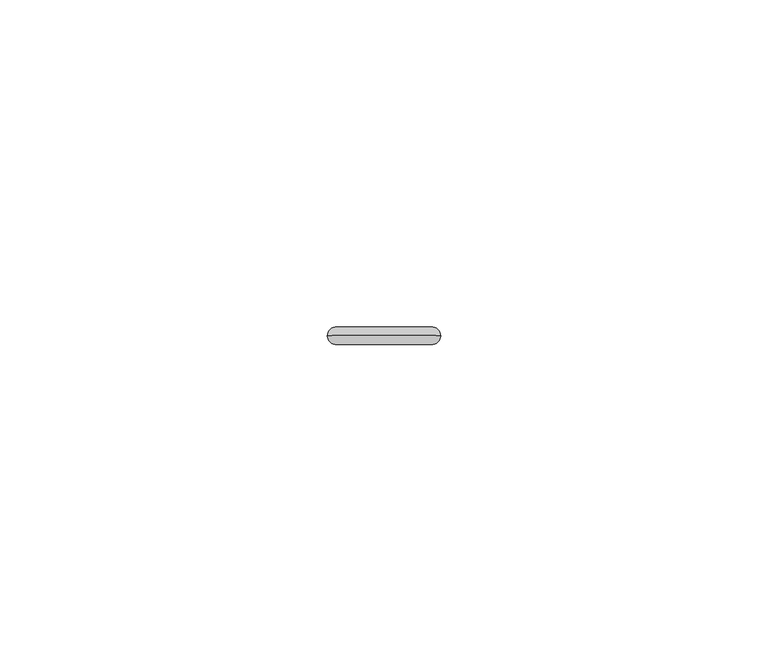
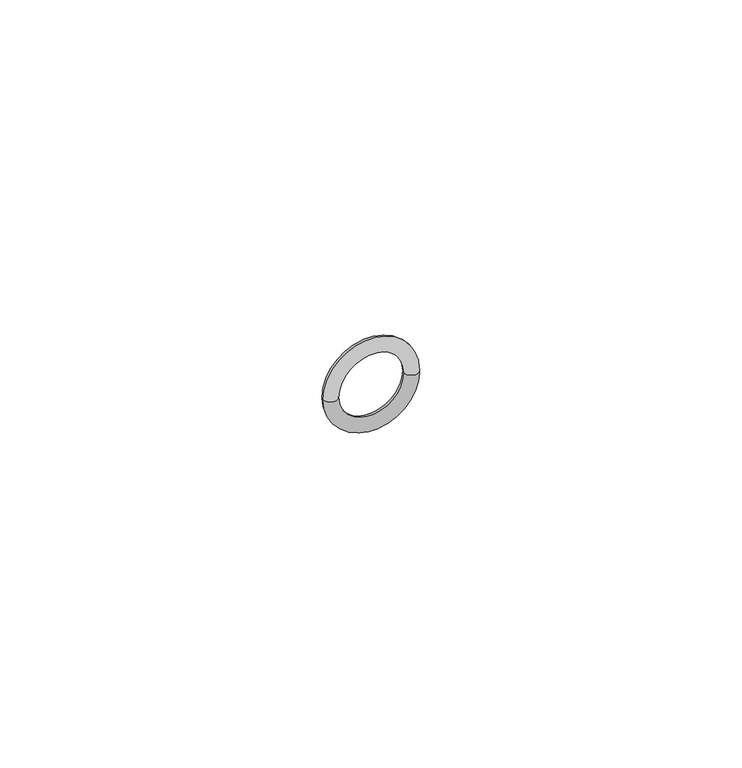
"""IFC4 building model written with IfcOpenShell, lengths in millimetres: pipe fitting geometry, VALTEC_VTi.990.I_Уплотнительное кольцо из FPM : VTi.990.I."""

from ifc_helpers import new_model, si_unit, point, frame, origin, place, context, project, spatial, circle_curve, ellipse_curve, trimmed, source, transform, mapped, element, save
from ifc_brep_helpers import revolved_surface, advanced_brep


def pipe_fitting_65f6df2c(model_context):
    return source(origin(), model_context, "Body", "AdvancedBrep", [
        advanced_brep(
        [(6.0, 0.0, 0.0), (-6.0, 0.0, 0.0), (-8.65, 0.0, 0.0), (8.65, 0.0, 0.0)],
        [
            (0, 1, circle_curve(frame((0.0, 0.0, 0.0), z_axis=(0.0, 1.0, 0.0), x_axis=(-1.0, 0.0, 0.0)), 6.0)),
            (1, 2, circle_curve(frame((-7.325, 0.0, 0.0), z_axis=(0.0, 0.0, -1.0), x_axis=(1.0, 0.0, 0.0)), 1.325)),
            (2, 3, circle_curve(frame((0.0, 0.0, 0.0), z_axis=(0.0, -1.0, 0.0), x_axis=(-1.0, 0.0, 0.0)), 8.65)),
            (3, 0, circle_curve(frame((7.325, 0.0, 0.0), z_axis=(0.0, 0.0, -1.0), x_axis=(-1.0, 0.0, 0.0)), 1.325)),
            (1, 0, circle_curve(frame((0.0, 0.0, 0.0), z_axis=(0.0, 1.0, 0.0), x_axis=(-1.0, 0.0, 0.0)), 6.0)),
            (3, 2, circle_curve(frame((0.0, 0.0, 0.0), z_axis=(0.0, -1.0, 0.0), x_axis=(-1.0, 0.0, 0.0)), 8.65)),
            (2, 1, circle_curve(frame((-7.325, 0.0, 0.0), z_axis=(0.0, 0.0, -1.0), x_axis=(1.0, 0.0, 0.0)), 1.325)),
            (0, 3, circle_curve(frame((7.325, 0.0, 0.0), z_axis=(0.0, 0.0, -1.0), x_axis=(-1.0, 0.0, 0.0)), 1.325)),
        ],
        [
            revolved_surface(trimmed(ellipse_curve(frame((-7.325, 0.0, 0.0), z_axis=(0.0, 0.0, 1.0), x_axis=(1.0, 0.0, 0.0)), 1.325, 1.325), [point((-8.65, 0.0, 0.0))], [point((-6.0, 0.0, 0.0))], True, "CARTESIAN"), (0.0, 1.0336847, 0.0), (0.0, -1.0, 0.0)),
            revolved_surface(trimmed(ellipse_curve(frame((-7.325, 0.0, 0.0), z_axis=(0.0, 0.0, 1.0), x_axis=(1.0, 0.0, 0.0)), 1.325, 1.325), [point((-6.0, 0.0, 0.0))], [point((-8.65, 0.0, 0.0))], True, "CARTESIAN"), (0.0, 1.0336847, 0.0), (0.0, -1.0, 0.0)),
        ],
        [
            (0, [[1, 2, 3, 4]]),
            (0, [[5, -4, 6, -2]]),
            (1, [[-3, 7, -1, 8]]),
            (1, [[-6, -8, -5, -7]]),
        ],
    ),
    ])


if __name__ == "__main__":
    model = new_model("IFC4")
    model_context = context("Model", 3, world=origin())
    ifc_project = project(units=[si_unit("LENGTHUNIT", "METRE", prefix="MILLI")], contexts=[model_context])
    site = spatial("IfcSite", under=ifc_project)
    building = spatial("IfcBuilding", under=site)
    placement = place(None, origin())
    pipe_fitting_shape = pipe_fitting_65f6df2c(model_context)
    element("IfcPipeFitting", 1, ObjectType="VALTEC_VTi.990.I_Уплотнительное кольцо из FPM : VTi.990.I", at=placement, inside=building, context=model_context, shape_type="MappedRepresentation", body=[
        mapped(pipe_fitting_shape, transform((0.0, 0.0, 0.0), x_axis=(1.0, 0.0, 0.0), y_axis=(0.0, 1.0, 0.0), z_axis=(0.0, 0.0, 1.0))),
    ])
    save(model, "model.ifc")
